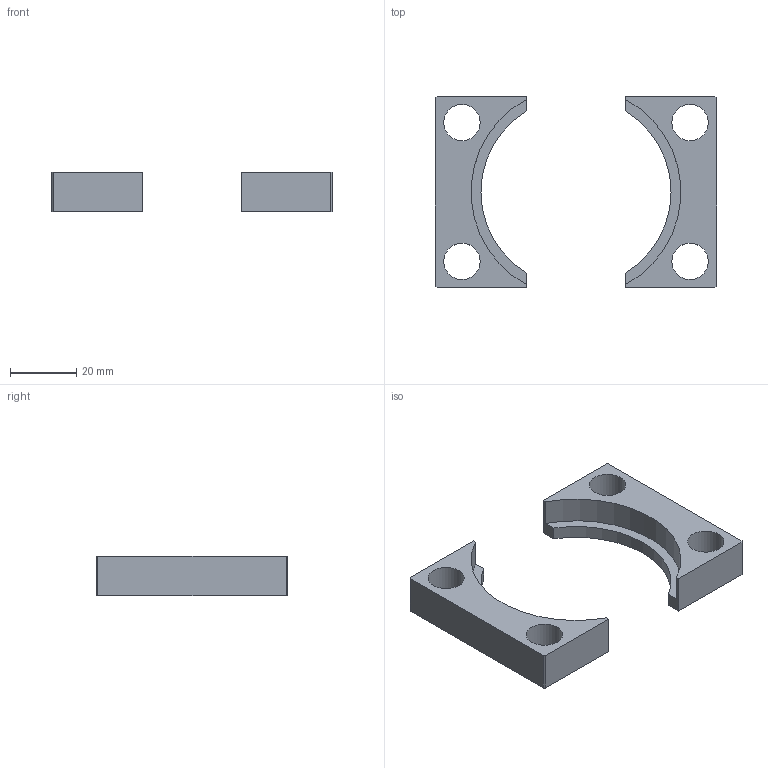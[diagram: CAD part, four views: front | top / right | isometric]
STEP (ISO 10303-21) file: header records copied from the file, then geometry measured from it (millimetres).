
FILE_DESCRIPTION(/* description */ (''),/* implementation_level */ '2;1');
FILE_NAME(/* name */ 'C:\Users\Jefferson\Desktop\Biblioteca Pro Nitro 2024\Flanges\PNB-32-XXX\PNB-32-063.stp',/* time_stamp */ '2024-01-10T17:11:46-03:00',/* author */ ('Jefferson'),/* organization */ (''),/* preprocessor_version */ 'ST-DEVELOPER v18.1',/* originating_system */ 'Autodesk Inventor 2021',/* authorisation */ '');
FILE_SCHEMA (('AUTOMOTIVE_DESIGN { 1 0 10303 214 3 1 1 }'));
Length unit declared in the file: millimetre
Products named in the file (1): PNB-32-063
Bounding box: 85 x 58 x 12 mm (x, y, z)
Volume: 19213.1 mm3; surface area: 9750.9 mm2
Topology: 2 solids, 2 shells, 205 faces, 558 edges, 372 vertices
Faces by surface type: bspline 102, plane 95, cylinder 8
Full cylindrical faces by diameter (mm): 11 x4
Entity records: 7016 total; most frequent: CARTESIAN_POINT 2462, ORIENTED_EDGE 1116, DIRECTION 578, EDGE_CURVE 558, VERTEX_POINT 372, LINE 338, VECTOR 338, EDGE_LOOP 228
